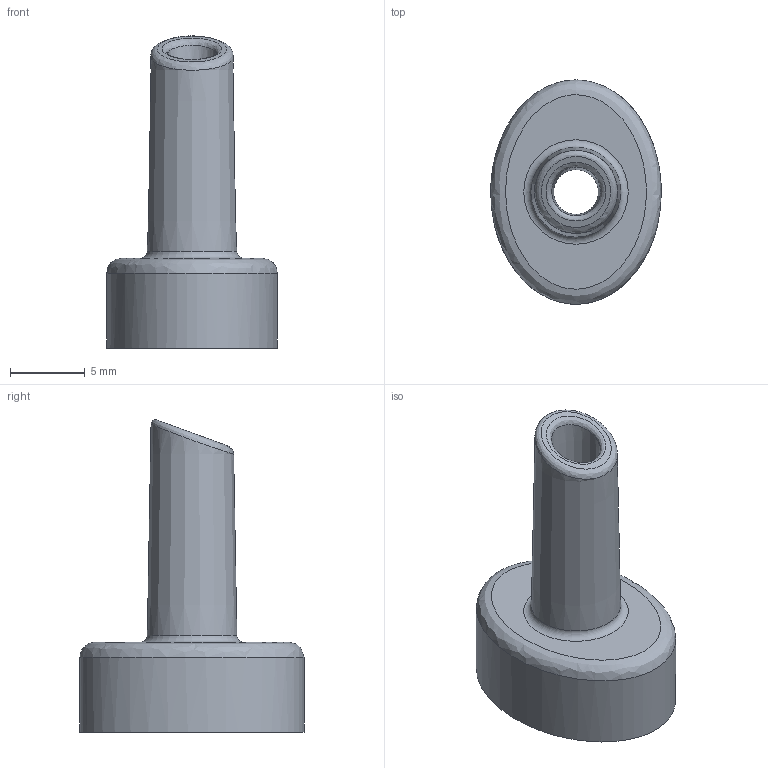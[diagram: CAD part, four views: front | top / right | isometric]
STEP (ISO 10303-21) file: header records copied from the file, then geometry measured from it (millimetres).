
FILE_DESCRIPTION(/* description */ (''),/* implementation_level */ '2;1');
FILE_NAME(/* name */ 'J:\Briefkasten\ja\von li\SoundPipe uc4.stp',/* time_stamp */ '2017-01-13T10:15:06+01:00',/* author */ ('Oliver Liedtke'),/* organization */ (''),/* preprocessor_version */ 'ST-DEVELOPER v16.5',/* originating_system */ 'Autodesk Inventor 2017',/* authorisation */ '');
FILE_SCHEMA (('AUTOMOTIVE_DESIGN { 1 0 10303 214 3 1 1 }'));
Length unit declared in the file: millimetre
Products named in the file (1): SoundPipe uc4
Bounding box: 11.41 x 14.99 x 20.87 mm (x, y, z)
Volume: 599.7 mm3; surface area: 1032.5 mm2
Topology: 1 solids, 1 shells, 18 faces, 35 edges, 21 vertices
Faces by surface type: bspline 10, plane 4, torus 2, cone 2
Entity records: 3490 total; most frequent: CARTESIAN_POINT 3164, ORIENTED_EDGE 58, DIRECTION 46, EDGE_CURVE 29, EDGE_LOOP 26, AXIS2_PLACEMENT_3D 22, VERTEX_POINT 19, FACE_OUTER_BOUND 18
